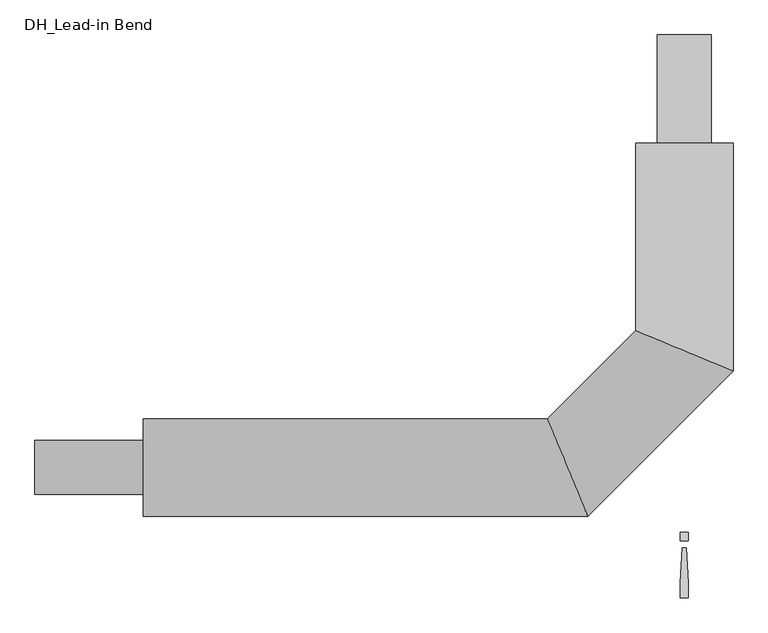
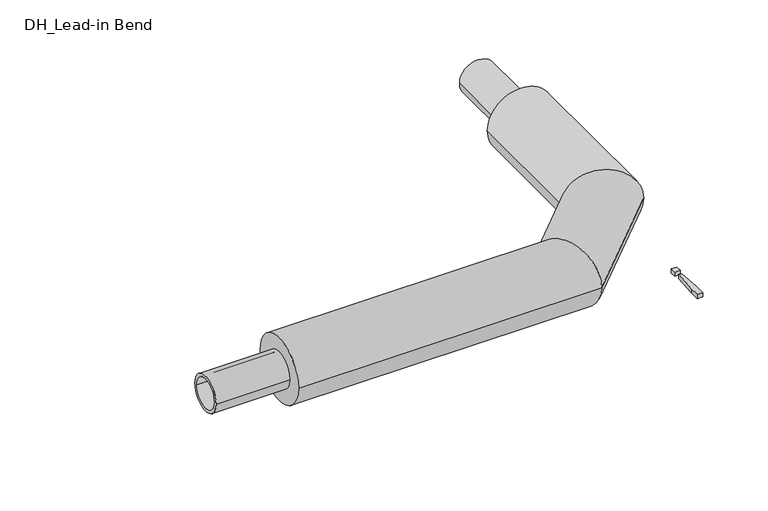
"""IFC4 building model written with IfcOpenShell, lengths in millimetres: pipe fitting geometry, DH_Lead-in Bend : INSULPEX UNO ++ 11 Heating."""

from ifc_helpers import new_model, si_unit, point, frame, origin, origin_with_axes, origin_2d, place, context, project, spatial, polyline, circle_curve, ellipse_curve, trimmed, segment, composite_curve, outline, extrude, source, transform, mapped, element, save
from ifc_brep_helpers import plane_surface, cylinder_surface, advanced_brep


def dh_lead_in_bend_d22ee4a0(model_context):
    return source(origin(), model_context, "Body", "SolidModel", [
        advanced_brep(
        [(-1250.0, -112.5, 0.0), (-1250.0, 112.5, 0.0), (-223.4009742, -112.5, 0.0), (-316.5990258, 112.5, 0.0), (112.5, 750.0, 0.0), (-112.5, 750.0, 0.0), (-112.5, 316.5990258, 0.0), (112.5, 223.4009742, 0.0)],
        [
            (0, 1, circle_curve(frame((-1250.0, 0.0, 0.0), z_axis=(-1.0, 0.0, 0.0), x_axis=(0.0, 1.0, 0.0)), 112.5)),
            (1, 0, circle_curve(frame((-1250.0, 0.0, 0.0), z_axis=(-1.0, 0.0, 0.0), x_axis=(0.0, 1.0, 0.0)), 112.5)),
            (0, 2),
            (2, 3, ellipse_curve(frame((-270.0, 0.0, 0.0), z_axis=(-0.9238795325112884, -0.38268343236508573, 0.0), x_axis=(-0.3826834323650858, 0.9238795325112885, 0.0)), 121.7691225, 112.5)),
            (3, 1),
            (3, 2, ellipse_curve(frame((-270.0, 0.0, 0.0), z_axis=(-0.9238795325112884, -0.38268343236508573, 0.0), x_axis=(-0.3826834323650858, 0.9238795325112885, 0.0)), 121.7691225, 112.5)),
            (4, 5, circle_curve(frame((0.0, 750.0, 0.0), z_axis=(0.0, 1.0, 0.0), x_axis=(-1.0, 0.0, 0.0)), 112.5)),
            (5, 4, circle_curve(frame((0.0, 750.0, 0.0), z_axis=(0.0, 1.0, 0.0), x_axis=(-1.0, 0.0, 0.0)), 112.5)),
            (6, 7, ellipse_curve(frame((0.0, 270.0, 0.0), z_axis=(0.38268343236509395, 0.9238795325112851, 0.0), x_axis=(0.9238795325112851, -0.38268343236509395, 0.0)), 121.7691225, 112.5)),
            (7, 4),
            (5, 6),
            (7, 6, ellipse_curve(frame((0.0, 270.0, 0.0), z_axis=(0.38268343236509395, 0.9238795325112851, 0.0), x_axis=(0.9238795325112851, -0.38268343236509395, 0.0)), 121.7691225, 112.5)),
            (2, 7),
            (6, 3),
        ],
        [
            plane_surface(frame((-1250.0, 0.0, 0.0), z_axis=(-1.0, 0.0, 0.0), x_axis=(0.0, 0.0, 1.0))),
            cylinder_surface(frame((-1250.0, 0.0, 0.0), z_axis=(-1.0, 0.0, 0.0), x_axis=(0.0, 1.0, 0.0)), 112.5),
            plane_surface(frame((0.0, 750.0, 0.0), z_axis=(0.0, 1.0, 0.0), x_axis=(0.0, 0.0, 1.0))),
            cylinder_surface(frame((0.0, 270.0, 0.0), z_axis=(0.0, -1.0, 0.0), x_axis=(-1.0, 0.0, 0.0)), 112.5),
            cylinder_surface(frame((-270.0, 0.0, 0.0), z_axis=(-0.7071067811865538, -0.7071067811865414, 0.0), x_axis=(-0.7071067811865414, 0.7071067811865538, 0.0)), 112.5),
        ],
        [
            (0, [[1, 2]]),
            (1, [[-1, 3, 4, 5]]),
            (1, [[-2, -5, 6, -3]]),
            (2, [[7, 8]]),
            (3, [[9, 10, -8, 11]]),
            (3, [[12, -11, -7, -10]]),
            (4, [[-4, 13, -9, 14]]),
            (4, [[-6, -14, -12, -13]]),
        ],
    ),
        extrude(outline(polyline([(4.7088895, -185.3166715), (9.4177791, -266.6553807), (9.4177791, -300.6844652), (-9.4177791, -300.6844652), (-9.4177791, -266.6553807), (-4.7088895, -185.3166715), (4.7088895, -185.3166715)])), origin_with_axes(), (0.0, 0.0, 1.0), 15.0),
        extrude(outline(polyline([(9.4177791, -150.0), (9.4177791, -168.8355582), (-9.4177791, -168.8355582), (-9.4177791, -150.0), (9.4177791, -150.0)])), origin_with_axes(), (0.0, 0.0, 1.0), 15.0),
        extrude(outline(composite_curve([segment(trimmed(circle_curve(origin_2d(), 62.5), [point((-62.5, 0.0))], [point((62.5, 0.0))], False, "CARTESIAN"), True, "CONTINUOUS"), segment(trimmed(circle_curve(origin_2d(), 62.5), [point((62.5, 0.0))], [point((-62.5, 0.0))], False, "CARTESIAN"), True, "CONTINUOUS")], self_intersect=False), holes=[composite_curve([segment(trimmed(circle_curve(origin_2d(), 51.1), [point((-51.1, 0.0))], [point((51.1, 0.0))], True, "CARTESIAN"), True, "CONTINUOUS"), segment(trimmed(circle_curve(origin_2d(), 51.1), [point((51.1, 0.0))], [point((-51.1, 0.0))], True, "CARTESIAN"), True, "CONTINUOUS")], self_intersect=False)]), frame((-1500.0, 0.0, 0.0), z_axis=(1.0, 0.0, 0.0), x_axis=(0.0, 1.0, 0.0)), (0.0, 0.0, 1.0), 250.0),
        extrude(outline(composite_curve([segment(trimmed(circle_curve(origin_2d(), 62.5), [point((0.0, 62.5))], [point((0.0, -62.5))], False, "CARTESIAN"), True, "CONTINUOUS"), segment(trimmed(circle_curve(origin_2d(), 62.5), [point((0.0, -62.5))], [point((0.0, 62.5))], False, "CARTESIAN"), True, "CONTINUOUS")], self_intersect=False), holes=[composite_curve([segment(trimmed(circle_curve(origin_2d(), 51.1), [point((0.0, 51.1))], [point((0.0, -51.1))], True, "CARTESIAN"), True, "CONTINUOUS"), segment(trimmed(circle_curve(origin_2d(), 51.1), [point((0.0, -51.1))], [point((0.0, 51.1))], True, "CARTESIAN"), True, "CONTINUOUS")], self_intersect=False)]), frame((0.0, 750.0, 0.0), z_axis=(0.0, 1.0, 0.0), x_axis=(0.0, 0.0, 1.0)), (0.0, 0.0, 1.0), 250.0),
    ])


if __name__ == "__main__":
    model = new_model("IFC4")
    model_context = context("Model", 3, world=origin())
    ifc_project = project(units=[si_unit("LENGTHUNIT", "METRE", prefix="MILLI")], contexts=[model_context])
    site = spatial("IfcSite", under=ifc_project)
    building = spatial("IfcBuilding", under=site)
    placement = place(None, origin())
    dh_lead_in_bend_shape = dh_lead_in_bend_d22ee4a0(model_context)
    element("IfcPipeFitting", 1, ObjectType="DH_Lead-in Bend : INSULPEX UNO ++ 11 Heating", at=placement, inside=building, context=model_context, shape_type="MappedRepresentation", body=[
        mapped(dh_lead_in_bend_shape, transform((0.0, 0.0, 0.0), x_axis=(1.0, 0.0, 0.0), y_axis=(0.0, 1.0, 0.0), z_axis=(0.0, 0.0, 1.0))),
    ])
    save(model, "model.ifc")
